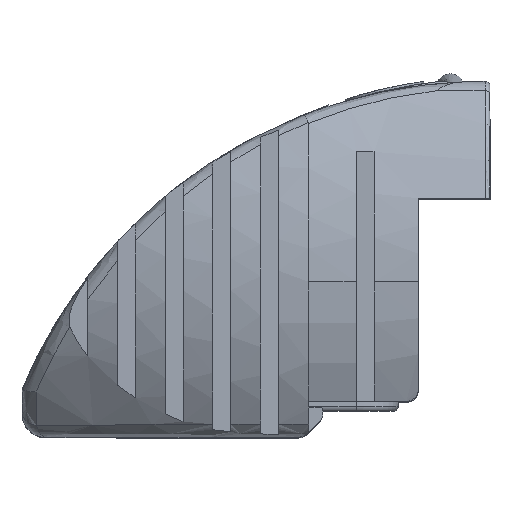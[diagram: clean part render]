
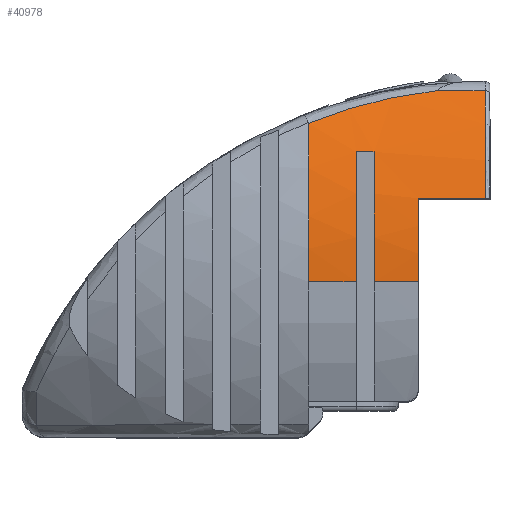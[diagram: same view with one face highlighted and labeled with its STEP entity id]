
A CAD part, top view. The second image highlights one B-rep face of the part: STEP entity #40978.
In plain terms, the highlighted cylindrical face has radius 26.4 mm (diameter 52.8 mm), a partial arc.
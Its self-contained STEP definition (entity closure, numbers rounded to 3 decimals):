
#494 = CARTESIAN_POINT ( 'NONE',  ( -26.4, 13., 3.99 ) ) ;
#543 = CARTESIAN_POINT ( 'NONE',  ( -26.4, 13., 9.2 ) ) ;
#606 = CARTESIAN_POINT ( 'NONE',  ( -24.05, 23.888, 3.996 ) ) ;
#1294 = CARTESIAN_POINT ( 'NONE',  ( -25.605, 20.454, 5.487 ) ) ;
#1296 = CARTESIAN_POINT ( 'NONE',  ( -24.05, 23.888, 5.486 ) ) ;
#1304 = CARTESIAN_POINT ( 'NONE',  ( -26.4, 16.77, 5.487 ) ) ;
#1305 = CARTESIAN_POINT ( 'NONE',  ( -26.4, 13., 5.487 ) ) ;
#3211 = VERTEX_POINT ( 'NONE', #64140 ) ;
#3248 = VERTEX_POINT ( 'NONE', #64186 ) ;
#3365 = VERTEX_POINT ( 'NONE', #64298 ) ;
#5480 = ORIENTED_EDGE ( 'NONE', *, *, #10781, .F. ) ;
#5498 = ORIENTED_EDGE ( 'NONE', *, *, #52935, .F. ) ;
#5557 = ORIENTED_EDGE ( 'NONE', *, *, #53251, .T. ) ;
#5585 = ORIENTED_EDGE ( 'NONE', *, *, #52420, .F. ) ;
#5719 = ORIENTED_EDGE ( 'NONE', *, *, #52443, .F. ) ;
#5743 = ORIENTED_EDGE ( 'NONE', *, *, #52938, .T. ) ;
#5780 = VERTEX_POINT ( 'NONE', #63743 ) ;
#6011 = ORIENTED_EDGE ( 'NONE', *, *, #53214, .T. ) ;
#6138 = ORIENTED_EDGE ( 'NONE', *, *, #53070, .T. ) ;
#6268 = ORIENTED_EDGE ( 'NONE', *, *, #52971, .T. ) ;
#6343 = ORIENTED_EDGE ( 'NONE', *, *, #53075, .T. ) ;
#6467 = ORIENTED_EDGE ( 'NONE', *, *, #52933, .T. ) ;
#6642 = VERTEX_POINT ( 'NONE', #51276 ) ;
#7093 = VERTEX_POINT ( 'NONE', #494 ) ;
#7315 = VERTEX_POINT ( 'NONE', #543 ) ;
#7885 = EDGE_LOOP ( 'NONE', ( #5585, #5498, #5480, #6467, #5743, #6268, #6011, #5719, #6343, #6138, #5557 ) ) ;
#9008 = VERTEX_POINT ( 'NONE', #606 ) ;
#10208 = CARTESIAN_POINT ( 'NONE',  ( -20.989, 29.013, 14.8 ) ) ;
#10304 = CARTESIAN_POINT ( 'NONE',  ( -24.05, 23.888, 5.486 ) ) ;
#10781 = EDGE_CURVE ( 'NONE', #3248, #11529, #50716, .T. ) ;
#10799 = CARTESIAN_POINT ( 'NONE',  ( -26.4, 13., 15.2 ) ) ;
#10823 = DIRECTION ( 'NONE',  ( 0., 0., -1. ) ) ;
#11529 = VERTEX_POINT ( 'NONE', #37485 ) ;
#12021 = B_SPLINE_CURVE_WITH_KNOTS ( 'NONE', 3,
 ( #28573, #28570, #28597, #28599, #28601, #28603 ),
 .UNSPECIFIED., .F., .F.,
 ( 4, 2, 4 ),
 ( 0.135, 0.354, 0.573 ),
 .UNSPECIFIED. ) ;
#12034 =( BOUNDED_CURVE ( )  B_SPLINE_CURVE ( 3, ( #22502, #22504, #22521, #22523 ),
 .UNSPECIFIED., .F., .F. ) 
 B_SPLINE_CURVE_WITH_KNOTS ( ( 4, 4 ),
 ( 0., 0.425 ),
 .UNSPECIFIED. ) 
 CURVE ( )  GEOMETRIC_REPRESENTATION_ITEM ( )  RATIONAL_B_SPLINE_CURVE ( ( 1., 0.985, 0.985, 1. ) ) 
 REPRESENTATION_ITEM ( '' )  );
#12133 =( BOUNDED_CURVE ( )  B_SPLINE_CURVE ( 3, ( #1296, #1294, #1304, #1305 ),
 .UNSPECIFIED., .F., .F. ) 
 B_SPLINE_CURVE_WITH_KNOTS ( ( 4, 4 ),
 ( 2.716, 3.142 ),
 .UNSPECIFIED. ) 
 CURVE ( )  GEOMETRIC_REPRESENTATION_ITEM ( )  RATIONAL_B_SPLINE_CURVE ( ( 1., 0.985, 0.985, 1. ) ) 
 REPRESENTATION_ITEM ( '' )  );
#12373 = B_SPLINE_CURVE_WITH_KNOTS ( 'NONE', 3,
 ( #24594, #24570, #24606, #24608, #24610, #24612, #24614, #24615 ),
 .UNSPECIFIED., .F., .F.,
 ( 4, 2, 2, 4 ),
 ( 0., 0.003, 0.006, 0.011 ),
 .UNSPECIFIED. ) ;
#22476 = CARTESIAN_POINT ( 'NONE',  ( -24.05, 23.888, 15.2 ) ) ;
#22487 = DIRECTION ( 'NONE',  ( 0., 0., 1. ) ) ;
#22502 = CARTESIAN_POINT ( 'NONE',  ( -26.4, 13., 3.99 ) ) ;
#22504 = CARTESIAN_POINT ( 'NONE',  ( -26.4, 16.77, 3.99 ) ) ;
#22521 = CARTESIAN_POINT ( 'NONE',  ( -25.605, 20.454, 3.992 ) ) ;
#22523 = CARTESIAN_POINT ( 'NONE',  ( -24.05, 23.888, 3.996 ) ) ;
#23992 = CARTESIAN_POINT ( 'NONE',  ( 0., 13., 14.8 ) ) ;
#23994 = DIRECTION ( 'NONE',  ( 0., 0., -1. ) ) ;
#23996 = DIRECTION ( 'NONE',  ( 1., 0., 0. ) ) ;
#24039 = CARTESIAN_POINT ( 'NONE',  ( 0., 13., 9.2 ) ) ;
#24041 = DIRECTION ( 'NONE',  ( 0., 0., 1. ) ) ;
#24043 = DIRECTION ( 'NONE',  ( 1., 0., 0. ) ) ;
#24080 = CARTESIAN_POINT ( 'NONE',  ( -20.989, 29.013, 15.2 ) ) ;
#24104 = DIRECTION ( 'NONE',  ( 0., 0., -1. ) ) ;
#24570 = CARTESIAN_POINT ( 'NONE',  ( -21.065, 28.914, 9.767 ) ) ;
#24594 = CARTESIAN_POINT ( 'NONE',  ( -20.989, 29.013, 10.698 ) ) ;
#24606 = CARTESIAN_POINT ( 'NONE',  ( -21.165, 28.781, 8.844 ) ) ;
#24608 = CARTESIAN_POINT ( 'NONE',  ( -21.409, 28.449, 7.014 ) ) ;
#24610 = CARTESIAN_POINT ( 'NONE',  ( -21.552, 28.25, 6.106 ) ) ;
#24612 = CARTESIAN_POINT ( 'NONE',  ( -22.028, 27.562, 3.428 ) ) ;
#24614 = CARTESIAN_POINT ( 'NONE',  ( -22.409, 26.981, 1.693 ) ) ;
#24615 = CARTESIAN_POINT ( 'NONE',  ( -22.817, 26.279, 0. ) ) ;
#28570 = CARTESIAN_POINT ( 'NONE',  ( -23.984, 24.274, 0. ) ) ;
#28573 = CARTESIAN_POINT ( 'NONE',  ( -22.817, 26.279, 0. ) ) ;
#28597 = CARTESIAN_POINT ( 'NONE',  ( -24.885, 22.116, 0. ) ) ;
#28599 = CARTESIAN_POINT ( 'NONE',  ( -26.093, 17.638, 0. ) ) ;
#28601 = CARTESIAN_POINT ( 'NONE',  ( -26.4, 15.319, 0. ) ) ;
#28603 = CARTESIAN_POINT ( 'NONE',  ( -26.4, 13., 0. ) ) ;
#30329 = DIRECTION ( 'NONE',  ( 0., 0., -1. ) ) ;
#30333 = DIRECTION ( 'NONE',  ( -1., 0., 0. ) ) ;
#30338 = CARTESIAN_POINT ( 'NONE',  ( 0., 13., 15.2 ) ) ;
#33226 = CARTESIAN_POINT ( 'NONE',  ( -26.4, 13., 15.2 ) ) ;
#33230 = DIRECTION ( 'NONE',  ( 0., 0., -1. ) ) ;
#35994 = FACE_OUTER_BOUND ( 'NONE', #7885, .T. ) ;
#36002 = CYLINDRICAL_SURFACE ( 'NONE', #61967, 26.4 ) ;
#37485 = CARTESIAN_POINT ( 'NONE',  ( -25.455, 20., 9.2 ) ) ;
#40978 = ADVANCED_FACE ( 'NONE', ( #35994 ), #36002, .T. ) ;
#42074 = AXIS2_PLACEMENT_3D ( 'NONE', #24039, #24041, #24043 ) ;
#42075 = AXIS2_PLACEMENT_3D ( 'NONE', #23992, #23994, #23996 ) ;
#46620 = VERTEX_POINT ( 'NONE', #10208 ) ;
#46682 = VERTEX_POINT ( 'NONE', #10304 ) ;
#47406 = LINE ( 'NONE', #10799, #47409 ) ;
#47409 = VECTOR ( 'NONE', #10823, 1000. ) ;
#47423 = LINE ( 'NONE', #33226, #47425 ) ;
#47425 = VECTOR ( 'NONE', #33230, 1000. ) ;
#47820 = CIRCLE ( 'NONE', #42075, 26.4 ) ;
#47824 = CIRCLE ( 'NONE', #42074, 26.4 ) ;
#47829 = LINE ( 'NONE', #24080, #47831 ) ;
#47831 = VECTOR ( 'NONE', #24104, 1000. ) ;
#47999 = LINE ( 'NONE', #22476, #48076 ) ;
#48076 = VECTOR ( 'NONE', #22487, 1000. ) ;
#50716 = LINE ( 'NONE', #66712, #50726 ) ;
#50726 = VECTOR ( 'NONE', #66969, 1000. ) ;
#51276 = CARTESIAN_POINT ( 'NONE',  ( -26.4, 13., 0. ) ) ;
#52420 = EDGE_CURVE ( 'NONE', #7315, #5780, #47406, .T. ) ;
#52443 = EDGE_CURVE ( 'NONE', #7093, #6642, #47423, .T. ) ;
#52933 = EDGE_CURVE ( 'NONE', #3248, #46620, #47820, .T. ) ;
#52935 = EDGE_CURVE ( 'NONE', #11529, #7315, #47824, .T. ) ;
#52938 = EDGE_CURVE ( 'NONE', #46620, #3365, #47829, .T. ) ;
#52971 = EDGE_CURVE ( 'NONE', #3365, #3211, #12373, .T. ) ;
#53070 = EDGE_CURVE ( 'NONE', #9008, #46682, #47999, .T. ) ;
#53075 = EDGE_CURVE ( 'NONE', #7093, #9008, #12034, .T. ) ;
#53214 = EDGE_CURVE ( 'NONE', #3211, #6642, #12021, .T. ) ;
#53251 = EDGE_CURVE ( 'NONE', #46682, #5780, #12133, .T. ) ;
#61967 = AXIS2_PLACEMENT_3D ( 'NONE', #30338, #30329, #30333 ) ;
#63743 = CARTESIAN_POINT ( 'NONE',  ( -26.4, 13., 5.487 ) ) ;
#64140 = CARTESIAN_POINT ( 'NONE',  ( -22.817, 26.279, 0. ) ) ;
#64186 = CARTESIAN_POINT ( 'NONE',  ( -25.455, 20., 14.8 ) ) ;
#64298 = CARTESIAN_POINT ( 'NONE',  ( -20.989, 29.013, 10.698 ) ) ;
#66712 = CARTESIAN_POINT ( 'NONE',  ( -25.455, 20., 15.2 ) ) ;
#66969 = DIRECTION ( 'NONE',  ( 0., 0., -1. ) ) ;
